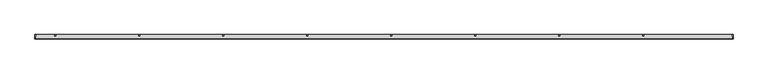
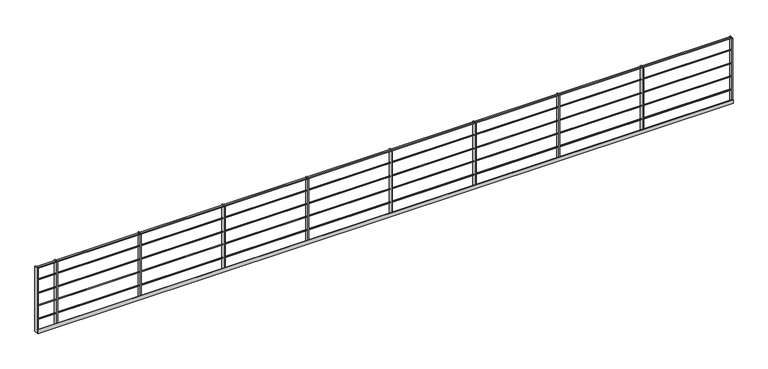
"""IFC4 building model written with IfcOpenShell, lengths in millimetres: proxy geometry, ARQ-BAR- Pasarela cubierta 2 : ARQ-BAR- Pasarela cubierta 2."""

import ifcopenshell
import ifcopenshell.guid

model = None  # the IFC model being written
_history = None  # IfcOwnerHistory: only IFC2X3 demands one
_inside = {}  # id of a spatial element -> (the spatial element, [elements in it])
_under = {}  # id of a project, library or spatial element -> (it, [spatial elements below it])
_declared = {}  # id of a project -> (the project, [libraries it declares])
_typed = {}  # id of a type object -> (the type object, [elements of that type])
_made_of = {}  # id of a material, layer set ... -> (it, [elements and type objects made of it])


def new_model(schema):
    """Start an empty IFC model of exactly this schema.

    Asked for "IFC4X3", IfcOpenShell would pick the latest addendum, in which some entities
    have other attributes; the version numbers below select the first issue.
    IFC2X3 requires an IfcOwnerHistory on every rooted entity: one is made here for all.
    """
    global model, _history
    if schema == "IFC4X3":
        model = ifcopenshell.file(schema_version=(4, 3, 0, 0))
    else:
        model = ifcopenshell.file(schema=schema)
    _inside.clear()
    _under.clear()
    _declared.clear()
    _typed.clear()
    _made_of.clear()
    _history = None
    if model.schema == "IFC2X3":
        org = make("IfcOrganization", Name="unknown")
        user = make(
            "IfcPersonAndOrganization",
            ThePerson=make("IfcPerson", FamilyName="unknown"),
            TheOrganization=org,
        )
        app = make(
            "IfcApplication",
            ApplicationDeveloper=org,
            Version="unknown",
            ApplicationFullName="unknown",
            ApplicationIdentifier="unknown",
        )
        _history = make(
            "IfcOwnerHistory",
            OwningUser=user,
            OwningApplication=app,
            ChangeAction="ADDED",
            CreationDate=0,
        )
    return model


def make(cls, **values):
    """One entity of the class cls with the attributes given. An attribute that is None is left unset."""
    return model.create_entity(
        cls, **{name: value for name, value in values.items() if value is not None}
    )


def rooted(cls, **values):
    """An entity with a GlobalId (a new one), such as an element, a storey or a relation."""
    return make(cls, GlobalId=ifcopenshell.guid.new(), OwnerHistory=_history, **values)


def si_unit(unit_type, name, prefix=None):
    """IfcSIUnit, for example si_unit("LENGTHUNIT", "METRE", prefix="MILLI")."""
    return make("IfcSIUnit", UnitType=unit_type, Prefix=prefix, Name=name)


def assignment(units):
    """IfcUnitAssignment: the units of a project."""
    return None if units is None else make("IfcUnitAssignment", Units=units)


def point(xyz):
    """IfcCartesianPoint."""
    return None if xyz is None else make("IfcCartesianPoint", Coordinates=xyz)


def direction(xyz):
    """IfcDirection."""
    return None if xyz is None else make("IfcDirection", DirectionRatios=xyz)


def frame(location, z_axis=None, x_axis=None):
    """IfcAxis2Placement3D, a coordinate frame: its origin and axes. An axis left out is left unset."""
    return make(
        "IfcAxis2Placement3D",
        Location=point(location),
        Axis=direction(z_axis),
        RefDirection=direction(x_axis),
    )


def frame_2d(location, x_axis=None):
    """IfcAxis2Placement2D, a coordinate frame in the plane: its origin and x axis."""
    return make(
        "IfcAxis2Placement2D", Location=point(location), RefDirection=direction(x_axis)
    )


def origin():
    """The frame at (0, 0, 0) with its axes left unset."""
    return frame((0.0, 0.0, 0.0))


def origin_with_axes():
    """The frame at (0, 0, 0) with the z axis (0, 0, 1) and the x axis (1, 0, 0) written out."""
    return frame((0.0, 0.0, 0.0), z_axis=(0.0, 0.0, 1.0), x_axis=(1.0, 0.0, 0.0))


def place(relative_to, where):
    """IfcLocalPlacement: puts the frame where relative to a parent placement (None: the world)."""
    return make(
        "IfcLocalPlacement", PlacementRelTo=relative_to, RelativePlacement=where
    )


def context(
    kind, dimensions, precision=None, world=None, true_north=None, identifier=None
):
    """IfcGeometricRepresentationContext, for example the 3D "Model" context."""
    return make(
        "IfcGeometricRepresentationContext",
        ContextIdentifier=identifier,
        ContextType=kind,
        CoordinateSpaceDimension=dimensions,
        Precision=precision,
        WorldCoordinateSystem=world,
        TrueNorth=true_north,
    )


def project(units=None, contexts=None):
    """IfcProject with its units and contexts."""
    return rooted(
        "IfcProject",
        Name="project",
        RepresentationContexts=contexts,
        UnitsInContext=assignment(units),
    )


def spatial(cls, under=None, at=None, **own):
    """A site, building, storey or space (cls), placed at a placement, below another one or the project."""
    s = rooted(cls, ObjectPlacement=at, **own)
    if under is not None:
        _under.setdefault(under.id(), (under, []))[1].append(s)
    return s


def polyline(points):
    """IfcPolyline through the points."""
    return make("IfcPolyline", Points=[point(p) for p in points])


def circle_curve(where, radius):
    """IfcCircle in the frame where."""
    return make("IfcCircle", Position=where, Radius=radius)


def trimmed(basis, trim1, trim2, sense, master):
    """IfcTrimmedCurve: the piece of a basis curve between two trims."""
    return make(
        "IfcTrimmedCurve",
        BasisCurve=basis,
        Trim1=trim1,
        Trim2=trim2,
        SenseAgreement=sense,
        MasterRepresentation=master,
    )


def segment(curve, same_sense, transition):
    """IfcCompositeCurveSegment."""
    return make(
        "IfcCompositeCurveSegment",
        Transition=transition,
        SameSense=same_sense,
        ParentCurve=curve,
    )


def composite_curve(segments, self_intersect=None):
    """IfcCompositeCurve: segments joined end to end."""
    return make("IfcCompositeCurve", Segments=segments, SelfIntersect=self_intersect)


def outline(outer, holes=None, kind="AREA"):
    """IfcArbitraryClosedProfileDef: a profile drawn as a closed curve; with holes, ...WithVoids."""
    if holes is None:
        return make("IfcArbitraryClosedProfileDef", ProfileType=kind, OuterCurve=outer)
    return make(
        "IfcArbitraryProfileDefWithVoids",
        ProfileType=kind,
        OuterCurve=outer,
        InnerCurves=holes,
    )


def extrude(swept, where, along, depth):
    """IfcExtrudedAreaSolid: the profile swept, set in the frame where, extruded along a direction by depth."""
    return make(
        "IfcExtrudedAreaSolid",
        SweptArea=swept,
        Position=where,
        ExtrudedDirection=direction(along),
        Depth=depth,
    )


def shape(context_of_items, identifier, shape_type, items):
    """IfcShapeRepresentation: the items that make up one representation, for example the "Body"."""
    return make(
        "IfcShapeRepresentation",
        ContextOfItems=context_of_items,
        RepresentationIdentifier=identifier,
        RepresentationType=shape_type,
        Items=items,
    )


def source(mapping_origin, context_of_items, identifier, shape_type, items):
    """IfcRepresentationMap: a shape defined once, which mapped items show again and again."""
    return make(
        "IfcRepresentationMap",
        MappingOrigin=mapping_origin,
        MappedRepresentation=shape(context_of_items, identifier, shape_type, items),
    )


def transform(
    local_origin,
    x_axis=None,
    y_axis=None,
    z_axis=None,
    scale=None,
    scale2=None,
    scale3=None,
    uniform=True,
):
    """IfcCartesianTransformationOperator3D, or its non-uniform kind. x_axis, y_axis, z_axis: its Axis1, 2, 3."""
    if uniform:
        return make(
            "IfcCartesianTransformationOperator3D",
            Axis1=direction(x_axis),
            Axis2=direction(y_axis),
            LocalOrigin=point(local_origin),
            Scale=scale,
            Axis3=direction(z_axis),
        )
    return make(
        "IfcCartesianTransformationOperator3DnonUniform",
        Axis1=direction(x_axis),
        Axis2=direction(y_axis),
        LocalOrigin=point(local_origin),
        Scale=scale,
        Axis3=direction(z_axis),
        Scale2=scale2,
        Scale3=scale3,
    )


def mapped(mapping_source, mapping_target):
    """IfcMappedItem: shows the shape of a source again, moved by a transform."""
    return make(
        "IfcMappedItem", MappingSource=mapping_source, MappingTarget=mapping_target
    )


def made_of(thing, what):
    """Note that an element or type object is made of a material, layer set ...; save() writes the relation."""
    if what is not None:
        _made_of.setdefault(what.id(), (what, []))[1].append(thing)
    return thing


def element(
    cls,
    number,
    at=None,
    inside=None,
    cuts=None,
    type_object=None,
    material=None,
    context=None,
    identifier="Body",
    shape_type=None,
    held_by="IfcProductDefinitionShape",
    body=None,
    shapes=None,
    **own,
):
    """One element of the class cls, such as IfcWall. Its Tag is "e" and its number.

    at: its placement. inside: the storey or other place that contains it. cuts: it is an
    opening in that element (IfcRelVoidsElement). A single representation is given by context,
    identifier, shape_type and body (its items); several are given by shapes. held_by: the class
    of the entity that holds the representations. save() writes the other relations.
    """
    e = rooted(cls, Tag="e%d" % number, ObjectPlacement=at, **own)
    if body is not None:
        shapes = [shape(context, identifier, shape_type, body)]
    if shapes is not None:
        e.Representation = make(held_by, Representations=shapes)
    if inside is not None:
        _inside.setdefault(inside.id(), (inside, []))[1].append(e)
    if cuts is not None:
        rooted(
            "IfcRelVoidsElement", RelatingBuildingElement=cuts, RelatedOpeningElement=e
        )
    if type_object is not None:
        _typed.setdefault(type_object.id(), (type_object, []))[1].append(e)
    return made_of(e, material)


def aggregate(whole, parts):
    """IfcRelAggregates: a whole, such as a stair, and the parts it consists of."""
    return rooted("IfcRelAggregates", RelatingObject=whole, RelatedObjects=parts)


def save(model, path):
    """Write the relations noted so far, then the file.

    IfcRelAggregates (storeys below a building ...), IfcRelContainedInSpatialStructure (elements
    in a storey), IfcRelDefinesByType, IfcRelAssociatesMaterial and IfcRelDeclares: one each for
    every whole, place, type object, material and project.
    """
    for whole, parts in _under.values():
        aggregate(whole, parts)
    for where, things in _inside.values():
        rooted(
            "IfcRelContainedInSpatialStructure",
            RelatedElements=things,
            RelatingStructure=where,
        )
    for kind, things in _typed.values():
        rooted("IfcRelDefinesByType", RelatedObjects=things, RelatingType=kind)
    for what, things in _made_of.values():
        rooted("IfcRelAssociatesMaterial", RelatedObjects=things, RelatingMaterial=what)
    for by, libraries in _declared.values():
        rooted("IfcRelDeclares", RelatingContext=by, RelatedDefinitions=libraries)
    model.write(path)


def generic_models_3e9eeec1(model_context):
    return source(origin(), model_context, "Body", "SweptSolid", [
        extrude(outline(polyline([(57.0, 858.6846171), (57.0, 845.4440821), (7.0, 868.759465), (7.0, 882.0), (57.0, 858.6846171)])), frame((812.0, 0.0, 0.0), z_axis=(1.0, 0.0, 0.0), x_axis=(0.0, 1.0, 0.0)), (0.0, 0.0, 1.0), 8786.0),
        extrude(outline(composite_curve([segment(trimmed(circle_curve(frame_2d((32.5857649, 700.0)), 6.0), [point((26.5857649, 700.0))], [point((38.5857649, 700.0))], False, "CARTESIAN"), True, "CONTINUOUS"), segment(trimmed(circle_curve(frame_2d((32.5857649, 700.0)), 6.0), [point((38.5857649, 700.0))], [point((26.5857649, 700.0))], False, "CARTESIAN"), True, "CONTINUOUS")], self_intersect=False)), frame((812.0, 0.0, 0.0), z_axis=(1.0, 0.0, 0.0), x_axis=(0.0, 1.0, 0.0)), (0.0, 0.0, 1.0), 8786.0),
        extrude(outline(composite_curve([segment(trimmed(circle_curve(frame_2d((32.5857649, 520.0)), 6.0), [point((26.5857649, 520.0))], [point((38.5857649, 520.0))], False, "CARTESIAN"), True, "CONTINUOUS"), segment(trimmed(circle_curve(frame_2d((32.5857649, 520.0)), 6.0), [point((38.5857649, 520.0))], [point((26.5857649, 520.0))], False, "CARTESIAN"), True, "CONTINUOUS")], self_intersect=False)), frame((812.0, 0.0, 0.0), z_axis=(1.0, 0.0, 0.0), x_axis=(0.0, 1.0, 0.0)), (0.0, 0.0, 1.0), 8786.0),
        extrude(outline(composite_curve([segment(trimmed(circle_curve(frame_2d((32.5857649, 350.0)), 6.0), [point((26.5857649, 350.0))], [point((38.5857649, 350.0))], False, "CARTESIAN"), True, "CONTINUOUS"), segment(trimmed(circle_curve(frame_2d((32.5857649, 350.0)), 6.0), [point((38.5857649, 350.0))], [point((26.5857649, 350.0))], False, "CARTESIAN"), True, "CONTINUOUS")], self_intersect=False)), frame((812.0, 0.0, 0.0), z_axis=(1.0, 0.0, 0.0), x_axis=(0.0, 1.0, 0.0)), (0.0, 0.0, 1.0), 8786.0),
        extrude(outline(composite_curve([segment(trimmed(circle_curve(frame_2d((32.5857649, 170.0)), 6.0), [point((26.5857649, 170.0))], [point((38.5857649, 170.0))], False, "CARTESIAN"), True, "CONTINUOUS"), segment(trimmed(circle_curve(frame_2d((32.5857649, 170.0)), 6.0), [point((38.5857649, 170.0))], [point((26.5857649, 170.0))], False, "CARTESIAN"), True, "CONTINUOUS")], self_intersect=False)), frame((812.0, 0.0, 0.0), z_axis=(1.0, 0.0, 0.0), x_axis=(0.0, 1.0, 0.0)), (0.0, 0.0, 1.0), 8786.0),
        extrude(outline(polyline([(9610.0, 57.0), (9610.0, 7.0), (9598.0, 7.0), (9598.0, 57.0), (9610.0, 57.0)])), origin_with_axes(), (0.0, 0.0, 1.0), 870.0),
        extrude(outline(polyline([(8480.0, 57.0), (8480.0, 7.0), (8468.0, 7.0), (8468.0, 57.0), (8480.0, 57.0)])), origin_with_axes(), (0.0, 0.0, 1.0), 870.0),
        extrude(outline(polyline([(7420.0, 57.0), (7420.0, 7.0), (7408.0, 7.0), (7408.0, 57.0), (7420.0, 57.0)])), origin_with_axes(), (0.0, 0.0, 1.0), 870.0),
        extrude(outline(polyline([(6360.0, 57.0), (6360.0, 7.0), (6348.0, 7.0), (6348.0, 57.0), (6360.0, 57.0)])), origin_with_axes(), (0.0, 0.0, 1.0), 870.0),
        extrude(outline(polyline([(5300.0, 57.0), (5300.0, 7.0), (5288.0, 7.0), (5288.0, 57.0), (5300.0, 57.0)])), origin_with_axes(), (0.0, 0.0, 1.0), 870.0),
        extrude(outline(polyline([(4240.0, 57.0), (4240.0, 7.0), (4228.0, 7.0), (4228.0, 57.0), (4240.0, 57.0)])), origin_with_axes(), (0.0, 0.0, 1.0), 870.0),
        extrude(outline(polyline([(3180.0, 57.0), (3180.0, 7.0), (3168.0, 7.0), (3168.0, 57.0), (3180.0, 57.0)])), origin_with_axes(), (0.0, 0.0, 1.0), 870.0),
        extrude(outline(polyline([(2120.0, 57.0), (2120.0, 7.0), (2108.0, 7.0), (2108.0, 57.0), (2120.0, 57.0)])), origin_with_axes(), (0.0, 0.0, 1.0), 870.0),
        extrude(outline(polyline([(1060.0, 57.0), (1060.0, 7.0), (1048.0, 7.0), (1048.0, 57.0), (1060.0, 57.0)])), origin_with_axes(), (0.0, 0.0, 1.0), 870.0),
        extrude(outline(polyline([(812.0, 57.0), (812.0, 7.0), (800.0, 7.0), (800.0, 57.0), (812.0, 57.0)])), origin_with_axes(), (0.0, 0.0, 1.0), 870.0),
        extrude(outline(polyline([(0.0, 0.0), (0.0, 50.0), (7.0, 50.0), (7.0, 7.0), (50.0, 7.0), (50.0, 0.0), (0.0, 0.0)])), frame((800.0, 0.0, 0.0), z_axis=(1.0, 0.0, 0.0), x_axis=(0.0, 1.0, 0.0)), (0.0, 0.0, 1.0), 8810.0),
    ])


if __name__ == "__main__":
    model = new_model("IFC4")
    model_context = context("Model", 3, world=origin())
    ifc_project = project(units=[si_unit("LENGTHUNIT", "METRE", prefix="MILLI")], contexts=[model_context])
    site = spatial("IfcSite", under=ifc_project)
    building = spatial("IfcBuilding", under=site)
    placement = place(None, origin())
    generic_models_shape = generic_models_3e9eeec1(model_context)
    element("IfcBuildingElementProxy", 1, Name="ARQ-BAR- Pasarela cubierta 2 : ARQ-BAR- Pasarela cubierta 2", ObjectType="ARQ-BAR- Pasarela cubierta 2 : ARQ-BAR- Pasarela cubierta 2", at=placement, inside=building, context=model_context, shape_type="MappedRepresentation", body=[
        mapped(generic_models_shape, transform((0.0, 0.0, 0.0), x_axis=(1.0, 0.0, 0.0), y_axis=(0.0, 1.0, 0.0), z_axis=(0.0, 0.0, 1.0))),
    ])
    save(model, "model.ifc")
